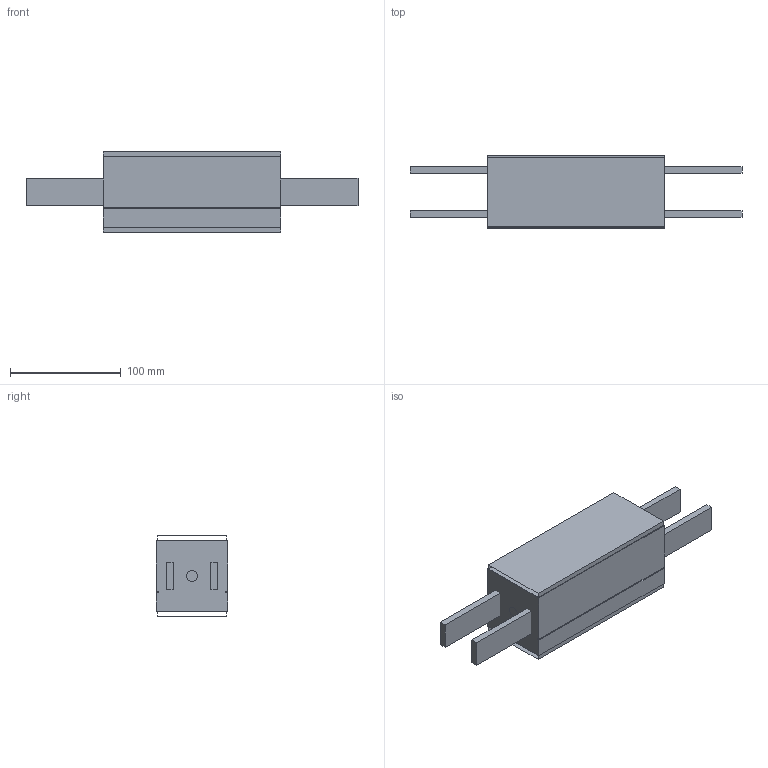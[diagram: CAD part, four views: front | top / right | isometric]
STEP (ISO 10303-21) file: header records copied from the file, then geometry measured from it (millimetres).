
FILE_DESCRIPTION(/* description */ ('Kettenmontageeinheit FL'),/* implementation_level */ '2;1');
FILE_NAME(/* name */ 'T:\vdz0\Step Daten Website\modulflex FL-System\Kettenmontageeinheit\FLCC 160_43800.stp',/* time_stamp */ '2024-08-22T09:45:45+02:00',/* author */ ('vdz0'),/* organization */ ('modular automation GmbH'),/* preprocessor_version */ 'ST-DEVELOPER v18.1',/* originating_system */ 'Autodesk Inventor 2021',/* authorisation */ '');
FILE_SCHEMA (('CONFIG_CONTROL_DESIGN'));
Length unit declared in the file: millimetre
Products named in the file (1): FLCC 160_43800
Bounding box: 300 x 65 x 73 mm (x, y, z)
Volume: 748960 mm3; surface area: 130620.3 mm2
Topology: 5 solids, 9 shells, 48 faces, 114 edges, 76 vertices
Faces by surface type: plane 46, cylinder 2
Full cylindrical faces by diameter (mm): 10 x2
Entity records: 1425 total; most frequent: CARTESIAN_POINT 239, DIRECTION 216, ORIENTED_EDGE 208, EDGE_CURVE 114, LINE 110, VECTOR 110, VERTEX_POINT 76, AXIS2_PLACEMENT_3D 53
